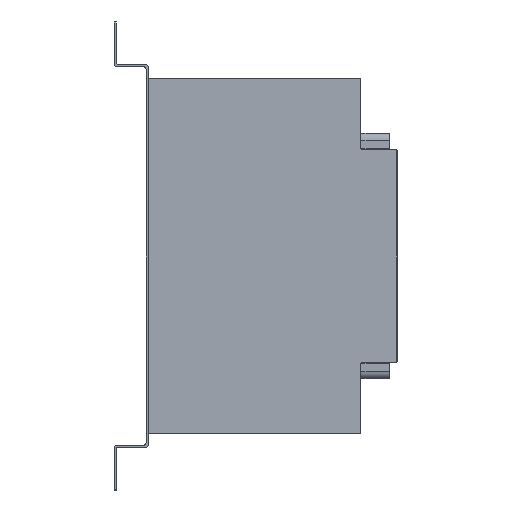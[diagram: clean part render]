
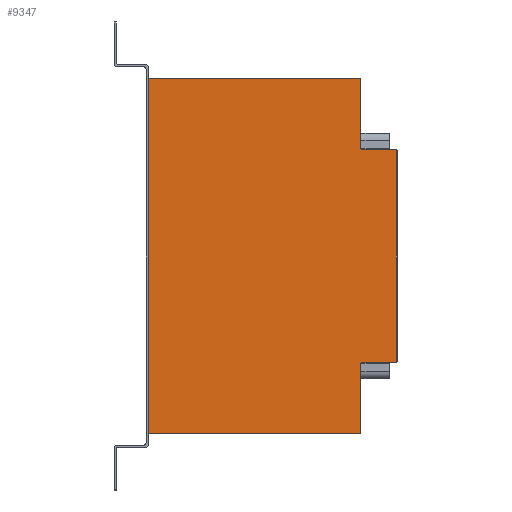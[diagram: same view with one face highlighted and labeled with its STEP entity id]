
A CAD part, left-side view. The second image highlights one B-rep face of the part: STEP entity #9347.
In plain terms, the highlighted planar face has unit normal (-1, 0, 0).
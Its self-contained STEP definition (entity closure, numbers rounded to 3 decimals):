
#405=PLANE('',#9975);
#764=FACE_OUTER_BOUND('',#1304,.T.);
#1304=EDGE_LOOP('',(#6846,#6847,#6848,#6849,#6850,#6851,#6852,#6853,#6854,
#6855,#6856,#6857));
#1910=LINE('',#13217,#2902);
#1980=LINE('',#13421,#2972);
#2035=LINE('',#13551,#3027);
#2107=LINE('',#13721,#3099);
#2118=LINE('',#13746,#3110);
#2125=LINE('',#13768,#3117);
#2126=LINE('',#13770,#3118);
#2127=LINE('',#13771,#3119);
#2902=VECTOR('',#10698,24.);
#2972=VECTOR('',#10874,24.);
#3027=VECTOR('',#10979,149.);
#3099=VECTOR('',#11123,149.);
#3110=VECTOR('',#11144,48.);
#3117=VECTOR('',#11173,150.);
#3118=VECTOR('',#11176,48.);
#3119=VECTOR('',#11177,250.);
#3831=CIRCLE('',#9871,1.);
#3843=CIRCLE('',#9919,1.);
#3862=CIRCLE('',#9960,1.);
#3864=CIRCLE('',#9966,1.);
#4128=VERTEX_POINT('',#13214);
#4129=VERTEX_POINT('',#13216);
#4155=VERTEX_POINT('',#13291);
#4209=VERTEX_POINT('',#13418);
#4210=VERTEX_POINT('',#13420);
#4254=VERTEX_POINT('',#13534);
#4255=VERTEX_POINT('',#13535);
#4260=VERTEX_POINT('',#13550);
#4321=VERTEX_POINT('',#13718);
#4322=VERTEX_POINT('',#13720);
#4327=VERTEX_POINT('',#13733);
#4331=VERTEX_POINT('',#13745);
#5059=EDGE_CURVE('',#4129,#4128,#1910,.T.);
#5098=EDGE_CURVE('',#4129,#4155,#3831,.T.);
#5160=EDGE_CURVE('',#4210,#4209,#1980,.T.);
#5221=EDGE_CURVE('',#4254,#4255,#3843,.T.);
#5229=EDGE_CURVE('',#4260,#4255,#2035,.T.);
#5318=EDGE_CURVE('',#4322,#4321,#2107,.T.);
#5325=EDGE_CURVE('',#4322,#4327,#3862,.T.);
#5331=EDGE_CURVE('',#4331,#4327,#2118,.T.);
#5334=EDGE_CURVE('',#4331,#4209,#3864,.T.);
#5344=EDGE_CURVE('',#4210,#4128,#2125,.T.);
#5345=EDGE_CURVE('',#4254,#4155,#2126,.T.);
#5346=EDGE_CURVE('',#4260,#4321,#2127,.T.);
#6846=ORIENTED_EDGE('',*,*,#5221,.F.);
#6847=ORIENTED_EDGE('',*,*,#5345,.T.);
#6848=ORIENTED_EDGE('',*,*,#5098,.F.);
#6849=ORIENTED_EDGE('',*,*,#5059,.T.);
#6850=ORIENTED_EDGE('',*,*,#5344,.F.);
#6851=ORIENTED_EDGE('',*,*,#5160,.T.);
#6852=ORIENTED_EDGE('',*,*,#5334,.F.);
#6853=ORIENTED_EDGE('',*,*,#5331,.T.);
#6854=ORIENTED_EDGE('',*,*,#5325,.F.);
#6855=ORIENTED_EDGE('',*,*,#5318,.T.);
#6856=ORIENTED_EDGE('',*,*,#5346,.F.);
#6857=ORIENTED_EDGE('',*,*,#5229,.T.);
#9347=ADVANCED_FACE('',(#764),#405,.T.);
#9871=AXIS2_PLACEMENT_3D('',#13292,#10773,#10774);
#9919=AXIS2_PLACEMENT_3D('',#13536,#10965,#10966);
#9960=AXIS2_PLACEMENT_3D('',#13734,#11132,#11133);
#9966=AXIS2_PLACEMENT_3D('',#13750,#11150,#11151);
#9975=AXIS2_PLACEMENT_3D('',#13769,#11174,#11175);
#10698=DIRECTION('',(0.,-1.,0.));
#10773=DIRECTION('center_axis',(-1.,0.,0.));
#10774=DIRECTION('ref_axis',(0.,0.707,0.707));
#10874=DIRECTION('',(0.,1.,0.));
#10965=DIRECTION('center_axis',(1.,0.,0.));
#10966=DIRECTION('ref_axis',(0.,-0.707,-0.707));
#10979=DIRECTION('',(0.,-1.,0.));
#11123=DIRECTION('',(0.,1.,0.));
#11132=DIRECTION('center_axis',(1.,0.,0.));
#11133=DIRECTION('ref_axis',(0.,-0.707,0.707));
#11144=DIRECTION('',(0.,0.,1.));
#11150=DIRECTION('center_axis',(-1.,0.,0.));
#11151=DIRECTION('ref_axis',(0.,0.707,-0.707));
#11173=DIRECTION('',(0.,0.,-1.));
#11174=DIRECTION('center_axis',(-1.,0.,0.));
#11175=DIRECTION('ref_axis',(0.,-1.,0.));
#11176=DIRECTION('',(0.,0.,1.));
#11177=DIRECTION('',(0.,0.,1.));
#13214=CARTESIAN_POINT('',(32.345,-376.901,67.5));
#13216=CARTESIAN_POINT('',(32.345,-352.901,67.5));
#13217=CARTESIAN_POINT('',(32.345,-351.901,67.5));
#13291=CARTESIAN_POINT('',(32.345,-351.901,66.5));
#13292=CARTESIAN_POINT('Origin',(32.345,-352.901,66.5));
#13418=CARTESIAN_POINT('',(32.345,-352.901,217.5));
#13420=CARTESIAN_POINT('',(32.345,-376.901,217.5));
#13421=CARTESIAN_POINT('',(32.345,-377.901,217.5));
#13534=CARTESIAN_POINT('',(32.345,-351.901,18.5));
#13535=CARTESIAN_POINT('',(32.345,-350.901,17.5));
#13536=CARTESIAN_POINT('Origin',(32.345,-350.901,18.5));
#13550=CARTESIAN_POINT('',(32.345,-201.901,17.5));
#13551=CARTESIAN_POINT('',(32.345,-201.901,17.5));
#13718=CARTESIAN_POINT('',(32.345,-201.901,267.5));
#13720=CARTESIAN_POINT('',(32.345,-350.901,267.5));
#13721=CARTESIAN_POINT('',(32.345,-351.901,267.5));
#13733=CARTESIAN_POINT('',(32.345,-351.901,266.5));
#13734=CARTESIAN_POINT('Origin',(32.345,-350.901,266.5));
#13745=CARTESIAN_POINT('',(32.345,-351.901,218.5));
#13746=CARTESIAN_POINT('',(32.345,-351.901,217.5));
#13750=CARTESIAN_POINT('Origin',(32.345,-352.901,218.5));
#13768=CARTESIAN_POINT('',(32.345,-376.901,105.));
#13769=CARTESIAN_POINT('Origin',(32.345,-286.85,142.5));
#13770=CARTESIAN_POINT('',(32.345,-351.901,17.5));
#13771=CARTESIAN_POINT('',(32.345,-201.901,210.));
